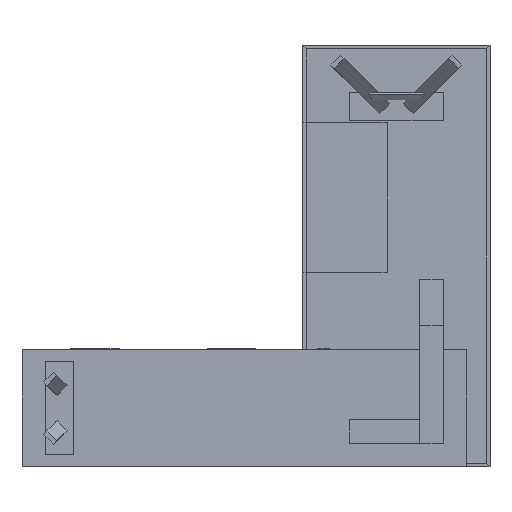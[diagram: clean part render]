
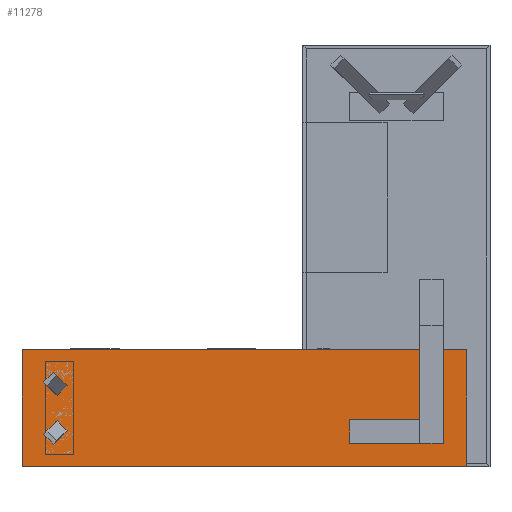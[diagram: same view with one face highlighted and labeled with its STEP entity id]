
A CAD part, front view. The second image highlights one B-rep face of the part: STEP entity #11278.
In plain terms, the highlighted planar face has unit normal (0, -1, 0).
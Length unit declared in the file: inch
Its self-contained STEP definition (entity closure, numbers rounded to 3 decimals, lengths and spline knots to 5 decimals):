
#2320=FACE_OUTER_BOUND('',#3032,.T.);
#3032=EDGE_LOOP('',(#8433,#8434,#8435,#8436,#8437));
#3881=LINE('',#18080,#4885);
#3885=LINE('',#18087,#4889);
#3887=LINE('',#18091,#4891);
#3888=LINE('',#18094,#4892);
#3890=LINE('',#18097,#4894);
#4885=VECTOR('',#14259,0.3937);
#4889=VECTOR('',#14265,0.3937);
#4891=VECTOR('',#14271,0.3937);
#4892=VECTOR('',#14274,0.3937);
#4894=VECTOR('',#14278,0.3937);
#5817=VERTEX_POINT('',#18077);
#5818=VERTEX_POINT('',#18079);
#5819=VERTEX_POINT('',#18083);
#5820=VERTEX_POINT('',#18085);
#5821=VERTEX_POINT('',#18093);
#6737=EDGE_CURVE('',#5817,#5818,#3881,.T.);
#6741=EDGE_CURVE('',#5820,#5819,#3885,.T.);
#6743=EDGE_CURVE('',#5818,#5820,#3887,.T.);
#6744=EDGE_CURVE('',#5821,#5819,#3888,.T.);
#6746=EDGE_CURVE('',#5817,#5821,#3890,.T.);
#8433=ORIENTED_EDGE('',*,*,#6746,.T.);
#8434=ORIENTED_EDGE('',*,*,#6744,.T.);
#8435=ORIENTED_EDGE('',*,*,#6741,.F.);
#8436=ORIENTED_EDGE('',*,*,#6743,.F.);
#8437=ORIENTED_EDGE('',*,*,#6737,.F.);
#11016=PLANE('',#12593);
#11278=ADVANCED_FACE('',(#2320),#11016,.T.);
#12593=AXIS2_PLACEMENT_3D('',#18098,#14279,#14280);
#14259=DIRECTION('',(0.,0.,1.));
#14265=DIRECTION('',(1.,0.,0.));
#14271=DIRECTION('',(1.,0.,0.));
#14274=DIRECTION('',(0.,0.,1.));
#14278=DIRECTION('',(1.,0.,0.));
#14279=DIRECTION('center_axis',(0.,-1.,0.));
#14280=DIRECTION('ref_axis',(1.,0.,0.));
#18077=CARTESIAN_POINT('',(0.,0.,0.));
#18079=CARTESIAN_POINT('',(0.,0.,25.));
#18080=CARTESIAN_POINT('',(0.,0.,0.));
#18083=CARTESIAN_POINT('',(95.,0.,25.));
#18085=CARTESIAN_POINT('',(85.,0.,25.));
#18087=CARTESIAN_POINT('',(0.,0.,25.));
#18091=CARTESIAN_POINT('',(0.,0.,25.));
#18093=CARTESIAN_POINT('',(95.,0.,0.));
#18094=CARTESIAN_POINT('',(95.,0.,0.));
#18097=CARTESIAN_POINT('',(0.,0.,0.));
#18098=CARTESIAN_POINT('Origin',(0.,0.,0.));
